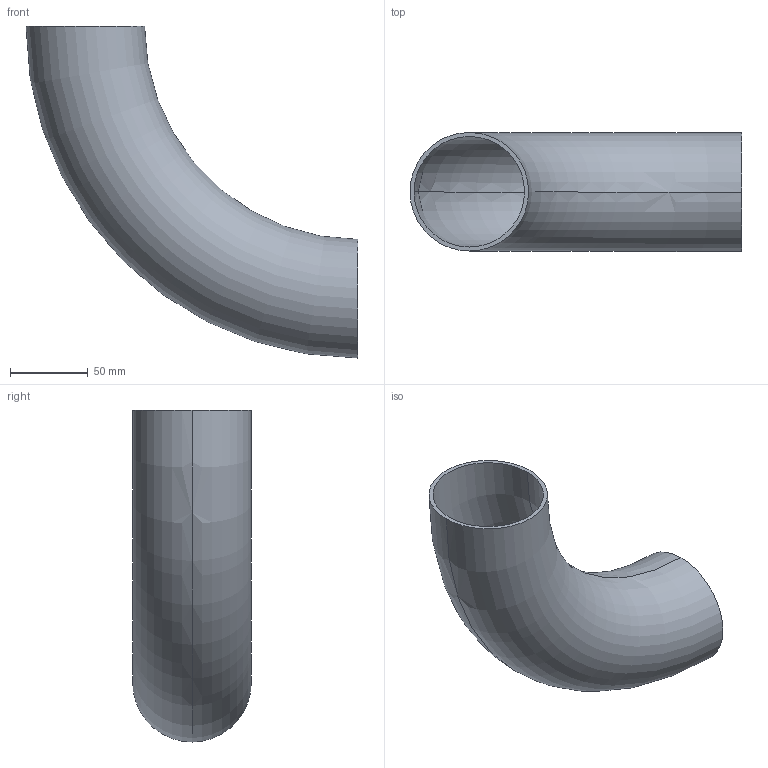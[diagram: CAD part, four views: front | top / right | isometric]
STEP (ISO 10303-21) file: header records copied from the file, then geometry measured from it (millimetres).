
FILE_DESCRIPTION (( 'STEP AP203' ), '1' );
FILE_NAME ('3D_R1655_76.1x2.6_17362260.STEP', '2024-08-05T09:14:14', ( '' ), ( '' ), 'SwSTEP 2.0', 'SolidWorks 2024', '' );
FILE_SCHEMA (( 'CONFIG_CONTROL_DESIGN' ));
Length unit declared in the file: millimetre
Products named in the file (1): 3D_R1655_76.1x2.6_17362260
Bounding box: 213.05 x 76.1 x 213.05 mm (x, y, z)
Volume: 165032.1 mm3; surface area: 128148.5 mm2
Topology: 1 solids, 1 shells, 6 faces, 12 edges, 8 vertices
Faces by surface type: torus 4, plane 2
Entity records: 249 total; most frequent: DIRECTION 38, CARTESIAN_POINT 27, ORIENTED_EDGE 24, AXIS2_PLACEMENT_3D 19, CIRCLE 12, EDGE_CURVE 12, EDGE_LOOP 8, VERTEX_POINT 8
